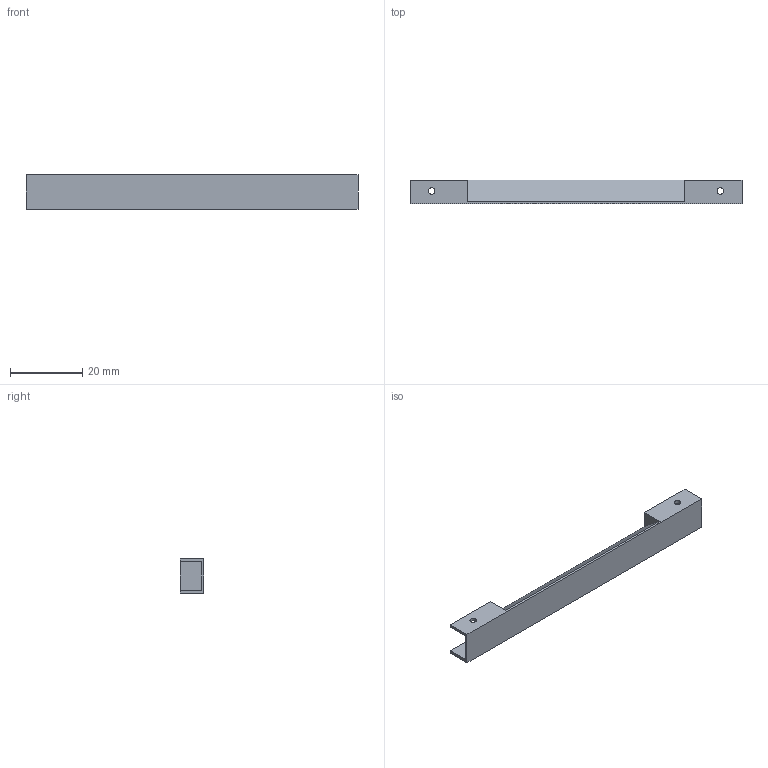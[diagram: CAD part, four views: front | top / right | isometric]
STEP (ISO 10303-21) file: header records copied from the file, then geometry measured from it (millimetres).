
FILE_DESCRIPTION(('FreeCAD Model'),'2;1');
FILE_NAME('Open CASCADE Shape Model','2026-05-01T23:20:14',(''),(''), 'Open CASCADE STEP processor 7.8','FreeCAD','Unknown');
FILE_SCHEMA(('AUTOMOTIVE_DESIGN { 1 0 10303 214 1 1 1 1 }'));
Length unit declared in the file: millimetre
Products named in the file (1): elevator_support
Bounding box: 92 x 6.56 x 9.6 mm (x, y, z)
Volume: 1408 mm3; surface area: 4432.7 mm2
Topology: 1 solids, 2 shells, 30 faces, 74 edges, 48 vertices
Faces by surface type: plane 26, cylinder 4
Full cylindrical faces by diameter (mm): 1.8 x4
Entity records: 906 total; most frequent: CARTESIAN_POINT 157, ORIENTED_EDGE 148, DIRECTION 140, EDGE_CURVE 74, LINE 62, VECTOR 62, VERTEX_POINT 48, AXIS2_PLACEMENT_3D 39
